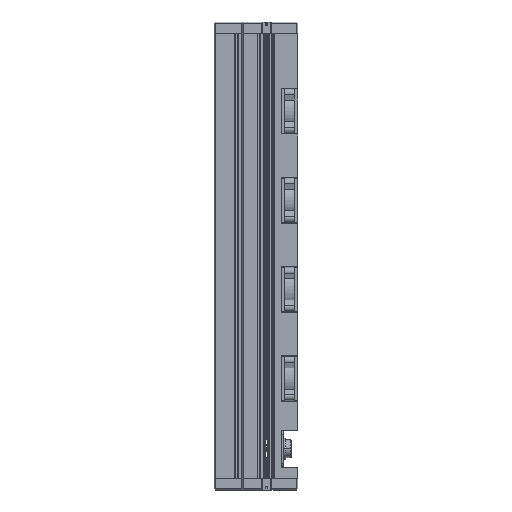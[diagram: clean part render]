
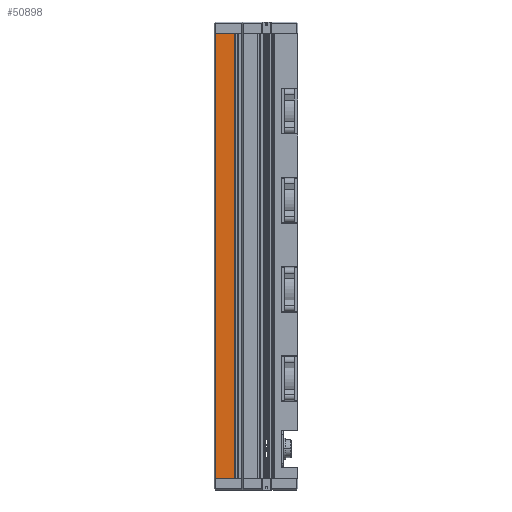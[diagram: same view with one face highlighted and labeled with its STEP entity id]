
A CAD part, left-side view. The second image highlights one B-rep face of the part: STEP entity #50898.
In plain terms, the highlighted planar face has unit normal (-1, 0, 0).
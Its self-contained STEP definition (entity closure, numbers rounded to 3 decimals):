
#75 = VERTEX_POINT ( 'NONE', #41053 ) ;
#2517 = EDGE_LOOP ( 'NONE', ( #44694, #46672, #51462, #57212 ) ) ;
#5413 = EDGE_CURVE ( 'NONE', #25065, #8040, #56195, .T. ) ;
#5445 = VECTOR ( 'NONE', #34314, 1000. ) ;
#7307 = VECTOR ( 'NONE', #27835, 1000. ) ;
#8040 = VERTEX_POINT ( 'NONE', #35943 ) ;
#9582 = VECTOR ( 'NONE', #26358, 1000. ) ;
#11062 = CARTESIAN_POINT ( 'NONE',  ( -15., 0., -200. ) ) ;
#12451 = VERTEX_POINT ( 'NONE', #46345 ) ;
#16476 = EDGE_CURVE ( 'NONE', #25065, #12451, #20031, .T. ) ;
#19314 = AXIS2_PLACEMENT_3D ( 'NONE', #11062, #20702, #54082 ) ;
#20031 = LINE ( 'NONE', #51438, #7307 ) ;
#20702 = DIRECTION ( 'NONE',  ( -1., 0., 0. ) ) ;
#21593 = CARTESIAN_POINT ( 'NONE',  ( -15., -1.5, -200. ) ) ;
#25065 = VERTEX_POINT ( 'NONE', #36026 ) ;
#26358 = DIRECTION ( 'NONE',  ( 0., 0., 1. ) ) ;
#27556 = EDGE_CURVE ( 'NONE', #12451, #75, #33381, .T. ) ;
#27835 = DIRECTION ( 'NONE',  ( 0., 0., 1. ) ) ;
#33381 = LINE ( 'NONE', #34337, #57309 ) ;
#34314 = DIRECTION ( 'NONE',  ( 0., -1., 0. ) ) ;
#34337 = CARTESIAN_POINT ( 'NONE',  ( -15., 0., 200. ) ) ;
#35943 = CARTESIAN_POINT ( 'NONE',  ( -15., -1.5, -200. ) ) ;
#36026 = CARTESIAN_POINT ( 'NONE',  ( -15., 16., -200. ) ) ;
#37481 = EDGE_CURVE ( 'NONE', #8040, #75, #47662, .T. ) ;
#39173 = DIRECTION ( 'NONE',  ( 0., -1., 0. ) ) ;
#41053 = CARTESIAN_POINT ( 'NONE',  ( -15., -1.5, 200. ) ) ;
#41488 = FACE_OUTER_BOUND ( 'NONE', #2517, .T. ) ;
#44694 = ORIENTED_EDGE ( 'NONE', *, *, #27556, .F. ) ;
#46345 = CARTESIAN_POINT ( 'NONE',  ( -15., 16., 200. ) ) ;
#46672 = ORIENTED_EDGE ( 'NONE', *, *, #16476, .F. ) ;
#47662 = LINE ( 'NONE', #21593, #9582 ) ;
#49255 = PLANE ( 'NONE',  #19314 ) ;
#50898 = ADVANCED_FACE ( 'NONE', ( #41488 ), #49255, .T. ) ;
#51438 = CARTESIAN_POINT ( 'NONE',  ( -15., 16., -200. ) ) ;
#51462 = ORIENTED_EDGE ( 'NONE', *, *, #5413, .T. ) ;
#54082 = DIRECTION ( 'NONE',  ( 0., 1., 0. ) ) ;
#56195 = LINE ( 'NONE', #58136, #5445 ) ;
#57212 = ORIENTED_EDGE ( 'NONE', *, *, #37481, .T. ) ;
#57309 = VECTOR ( 'NONE', #39173, 1000. ) ;
#58136 = CARTESIAN_POINT ( 'NONE',  ( -15., 0., -200. ) ) ;
